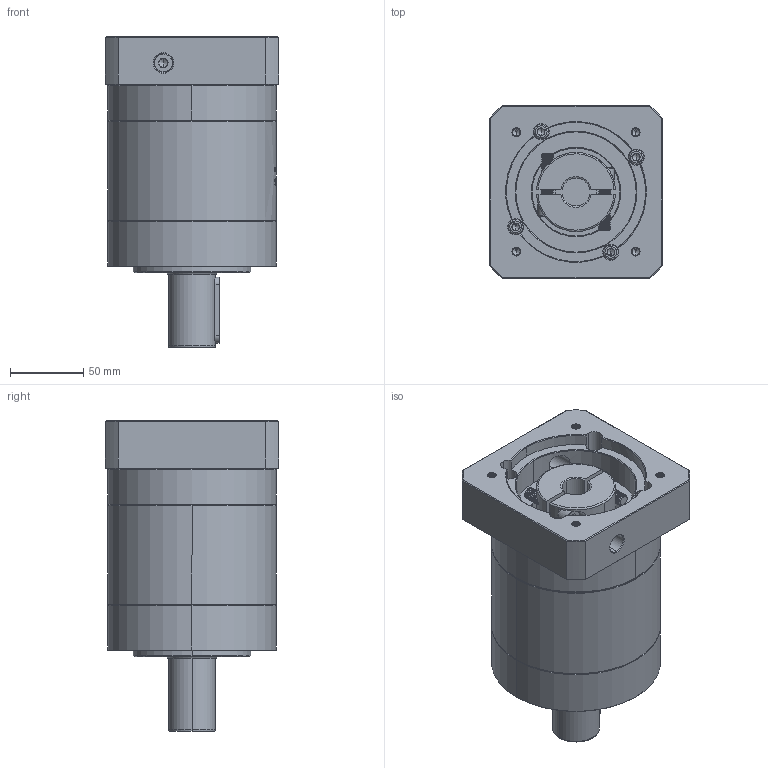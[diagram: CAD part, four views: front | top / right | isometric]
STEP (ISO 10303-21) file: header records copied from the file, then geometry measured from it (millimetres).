
FILE_DESCRIPTION (( 'STEP AP214' ), '1' );
FILE_NAME ('ZE120A-D32-L2-19-95-115-M6.step', '2023-03-09T06:28:13', ( '' ), ( '' ), 'SwSTEP 2.0', 'SolidWorks 2016', '' );
FILE_SCHEMA (( 'AUTOMOTIVE_DESIGN' ));
Length unit declared in the file: millimetre
Products named in the file (1): ZE120A-D32-L2-19-95-115-M6
Bounding box: 118 x 118 x 212 mm (x, y, z)
Volume: 1617151.5 mm3; surface area: 163963.1 mm2
Topology: 6 solids, 6 shells, 2044 faces, 5408 edges, 3457 vertices
Faces by surface type: plane 836, cylinder 519, bspline 353, cone 336
Entity records: 118630 total; most frequent: CARTESIAN_POINT 50104, ORIENTED_EDGE 10740, DIRECTION 8098, EDGE_CURVE 5370, VERTEX_POINT 3457, VECTOR 2804, LINE 2804, AXIS2_PLACEMENT_3D 2647
